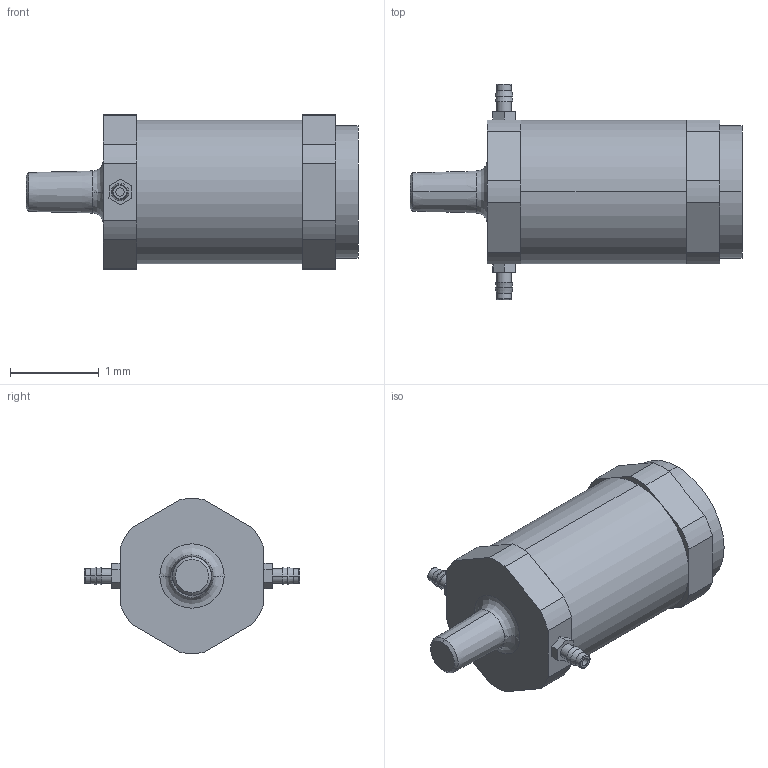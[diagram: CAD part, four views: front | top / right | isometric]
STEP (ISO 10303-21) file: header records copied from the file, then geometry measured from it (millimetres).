
FILE_DESCRIPTION((''),'2;1');
FILE_NAME('UBR4.stp','2017-11-07T11:20:31',(''),(''),'Mechanical Desktop 2011','Mechanical Desktop 2011',', , ');
FILE_SCHEMA(('CONFIG_CONTROL_DESIGN'));
Length unit declared in the file: millimetre
Products named in the file (1): Product
Bounding box: 3.75 x 2.44 x 1.75 mm (x, y, z)
Volume: 6.2 mm3; surface area: 33.6 mm2
Topology: 6 solids, 6 shells, 89 faces, 201 edges, 131 vertices
Faces by surface type: plane 43, cylinder 28, cone 12, torus 4, bspline 2
Entity records: 2685 total; most frequent: CARTESIAN_POINT 510, DIRECTION 466, ORIENTED_EDGE 402, EDGE_CURVE 201, AXIS2_PLACEMENT_3D 177, VERTEX_POINT 131, VECTOR 112, LINE 112
